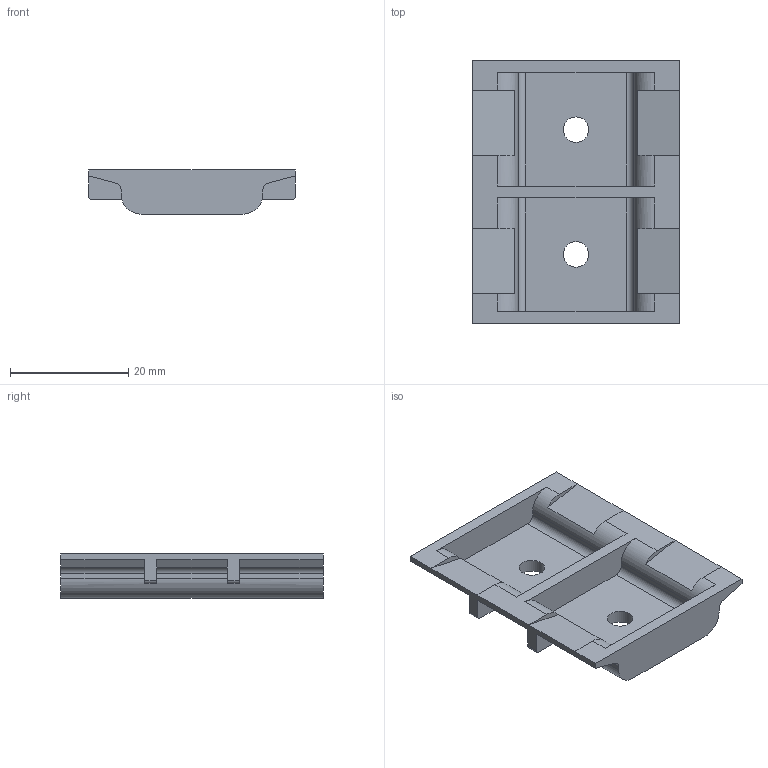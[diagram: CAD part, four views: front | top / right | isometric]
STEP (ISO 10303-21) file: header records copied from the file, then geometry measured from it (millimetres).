
FILE_DESCRIPTION( ( 'Unknown' ), '1' );
FILE_NAME( 'J:/DESBAKUP/3D DATA/MK-050PSM/ASSEMBLIES/3D OUTPUT & IMAGES/MK-050PSM.stp', 'Unknown', ( 'Unknown' ), ( 'Unknown' ), 'PSStep 13.0', 'Unknown', ' ' );
FILE_SCHEMA( ( 'AUTOMOTIVE_DESIGN { 1 0 10303 214 1 1 1 1 }' ) );
Length unit declared in the file: millimetre
Products named in the file (1): 1
Bounding box: 35 x 44.4 x 7.5 mm (x, y, z)
Volume: 4392.1 mm3; surface area: 4755.3 mm2
Topology: 1 solids, 1 shells, 76 faces, 214 edges, 140 vertices
Faces by surface type: plane 54, cylinder 22
Full cylindrical faces by diameter (mm): 4.3 x2
Entity records: 3076 total; most frequent: CARTESIAN_POINT 429, DIRECTION 426, ORIENTED_EDGE 424, EDGE_CURVE 212, LINE 152, VECTOR 152, VERTEX_POINT 140, AXIS2_PLACEMENT_3D 137
